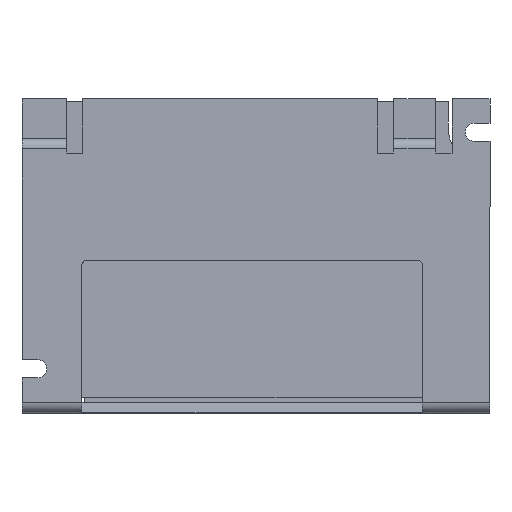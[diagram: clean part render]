
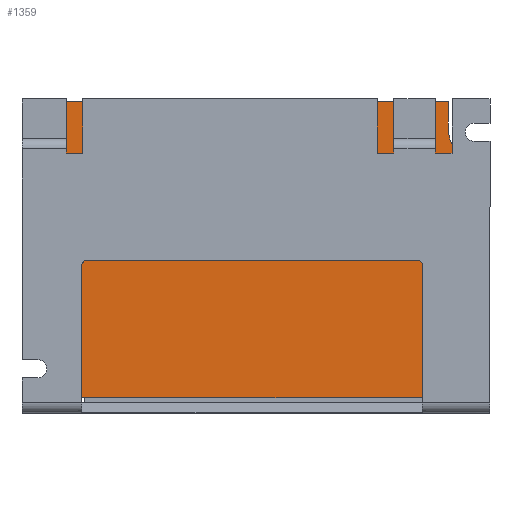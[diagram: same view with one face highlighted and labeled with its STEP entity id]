
A CAD part, front view. The second image highlights one B-rep face of the part: STEP entity #1359.
In plain terms, the highlighted planar face has unit normal (0, -1, 0).
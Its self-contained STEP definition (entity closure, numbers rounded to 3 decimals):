
#24 = LINE ( 'NONE', #4734, #4375 ) ;
#28 = ORIENTED_EDGE ( 'NONE', *, *, #1169, .F. ) ;
#69 = DIRECTION ( 'NONE',  ( 0., -1., 0. ) ) ;
#87 = PLANE ( 'NONE',  #1965 ) ;
#114 = LINE ( 'NONE', #1860, #240 ) ;
#166 = DIRECTION ( 'NONE',  ( 1., 0., 0. ) ) ;
#182 = EDGE_CURVE ( 'NONE', #1702, #1739, #731, .T. ) ;
#214 = DIRECTION ( 'NONE',  ( 1., 0., 0. ) ) ;
#224 = LINE ( 'NONE', #3394, #2155 ) ;
#240 = VECTOR ( 'NONE', #4705, 1000. ) ;
#352 = DIRECTION ( 'NONE',  ( 0., 0., -1. ) ) ;
#410 = LINE ( 'NONE', #4263, #4504 ) ;
#503 = DIRECTION ( 'NONE',  ( 0., 0., -1. ) ) ;
#611 = LINE ( 'NONE', #5238, #1557 ) ;
#668 = CARTESIAN_POINT ( 'NONE',  ( -44.5, 7.5, -27.3 ) ) ;
#678 = ORIENTED_EDGE ( 'NONE', *, *, #4752, .F. ) ;
#699 = CARTESIAN_POINT ( 'NONE',  ( -42., 7.5, -16.3 ) ) ;
#710 = VERTEX_POINT ( 'NONE', #4055 ) ;
#731 = LINE ( 'NONE', #1283, #5060 ) ;
#795 = VERTEX_POINT ( 'NONE', #3680 ) ;
#853 = ORIENTED_EDGE ( 'NONE', *, *, #1650, .F. ) ;
#910 = VERTEX_POINT ( 'NONE', #3053 ) ;
#915 = CARTESIAN_POINT ( 'NONE',  ( -36.5, 7.5, 22.6 ) ) ;
#928 = CARTESIAN_POINT ( 'NONE',  ( 34.5, 7.5, 29.7 ) ) ;
#934 = LINE ( 'NONE', #3027, #1057 ) ;
#1027 = VERTEX_POINT ( 'NONE', #3135 ) ;
#1054 = VERTEX_POINT ( 'NONE', #699 ) ;
#1057 = VECTOR ( 'NONE', #166, 1000. ) ;
#1158 = CARTESIAN_POINT ( 'NONE',  ( 44.5, 7.5, -27.3 ) ) ;
#1169 = EDGE_CURVE ( 'NONE', #2728, #710, #1498, .T. ) ;
#1226 = DIRECTION ( 'NONE',  ( 0., 0., -1. ) ) ;
#1283 = CARTESIAN_POINT ( 'NONE',  ( 37., 7.5, 29.7 ) ) ;
#1317 = CARTESIAN_POINT ( 'NONE',  ( 44.5, 7.5, 29.7 ) ) ;
#1318 = ORIENTED_EDGE ( 'NONE', *, *, #3764, .F. ) ;
#1359 = ADVANCED_FACE ( 'NONE', ( #3604 ), #87, .T. ) ;
#1413 = EDGE_CURVE ( 'NONE', #2068, #3480, #224, .T. ) ;
#1448 = EDGE_CURVE ( 'NONE', #2626, #1739, #934, .T. ) ;
#1493 = VECTOR ( 'NONE', #214, 1000. ) ;
#1498 = LINE ( 'NONE', #1158, #3551 ) ;
#1505 = ORIENTED_EDGE ( 'NONE', *, *, #1901, .F. ) ;
#1506 = DIRECTION ( 'NONE',  ( 0., 0., 1. ) ) ;
#1557 = VECTOR ( 'NONE', #352, 1000. ) ;
#1586 = EDGE_CURVE ( 'NONE', #1027, #1054, #1760, .T. ) ;
#1628 = ORIENTED_EDGE ( 'NONE', *, *, #1413, .T. ) ;
#1646 = DIRECTION ( 'NONE',  ( 0., 1., 0. ) ) ;
#1650 = EDGE_CURVE ( 'NONE', #2068, #3725, #24, .T. ) ;
#1702 = VERTEX_POINT ( 'NONE', #4374 ) ;
#1739 = VERTEX_POINT ( 'NONE', #4404 ) ;
#1747 = ORIENTED_EDGE ( 'NONE', *, *, #2924, .T. ) ;
#1751 = EDGE_CURVE ( 'NONE', #2626, #910, #611, .T. ) ;
#1760 = LINE ( 'NONE', #5092, #1493 ) ;
#1860 = CARTESIAN_POINT ( 'NONE',  ( -37., 7.5, -27.3 ) ) ;
#1901 = EDGE_CURVE ( 'NONE', #795, #2728, #4716, .T. ) ;
#1965 = AXIS2_PLACEMENT_3D ( 'NONE', #2135, #69, #503 ) ;
#1991 = ORIENTED_EDGE ( 'NONE', *, *, #1448, .F. ) ;
#2068 = VERTEX_POINT ( 'NONE', #915 ) ;
#2135 = CARTESIAN_POINT ( 'NONE',  ( 44.5, 7.5, 29.7 ) ) ;
#2136 = CARTESIAN_POINT ( 'NONE',  ( -37., 7.5, -21.3 ) ) ;
#2155 = VECTOR ( 'NONE', #4618, 1000. ) ;
#2193 = DIRECTION ( 'NONE',  ( 0., 1., 0. ) ) ;
#2318 = DIRECTION ( 'NONE',  ( 0., 0., 1. ) ) ;
#2426 = CARTESIAN_POINT ( 'NONE',  ( 34.5, 7.5, 22.6 ) ) ;
#2477 = EDGE_CURVE ( 'NONE', #910, #5042, #2869, .T. ) ;
#2594 = ORIENTED_EDGE ( 'NONE', *, *, #1586, .T. ) ;
#2626 = VERTEX_POINT ( 'NONE', #928 ) ;
#2695 = ORIENTED_EDGE ( 'NONE', *, *, #1751, .T. ) ;
#2728 = VERTEX_POINT ( 'NONE', #4228 ) ;
#2825 = DIRECTION ( 'NONE',  ( -1., 0., 0. ) ) ;
#2856 = ORIENTED_EDGE ( 'NONE', *, *, #3139, .T. ) ;
#2869 = LINE ( 'NONE', #2426, #4899 ) ;
#2908 = CARTESIAN_POINT ( 'NONE',  ( -36.5, 7.5, 29.7 ) ) ;
#2924 = EDGE_CURVE ( 'NONE', #5042, #2937, #3488, .T. ) ;
#2932 = CARTESIAN_POINT ( 'NONE',  ( 26.5, 7.5, 22.6 ) ) ;
#2937 = VERTEX_POINT ( 'NONE', #3544 ) ;
#3027 = CARTESIAN_POINT ( 'NONE',  ( 44.5, 7.5, 29.7 ) ) ;
#3053 = CARTESIAN_POINT ( 'NONE',  ( 34.5, 7.5, 22.6 ) ) ;
#3135 = CARTESIAN_POINT ( 'NONE',  ( -44.5, 7.5, -16.3 ) ) ;
#3139 = EDGE_CURVE ( 'NONE', #1054, #4423, #4749, .T. ) ;
#3218 = AXIS2_PLACEMENT_3D ( 'NONE', #4090, #1646, #4507 ) ;
#3354 = VECTOR ( 'NONE', #4169, 1000. ) ;
#3375 = VECTOR ( 'NONE', #3517, 1000. ) ;
#3394 = CARTESIAN_POINT ( 'NONE',  ( -36.5, 7.5, 22.6 ) ) ;
#3421 = ORIENTED_EDGE ( 'NONE', *, *, #4488, .T. ) ;
#3480 = VERTEX_POINT ( 'NONE', #4787 ) ;
#3488 = LINE ( 'NONE', #3948, #4572 ) ;
#3517 = DIRECTION ( 'NONE',  ( 0., 0., 1. ) ) ;
#3544 = CARTESIAN_POINT ( 'NONE',  ( 26.5, 7.5, 29.7 ) ) ;
#3551 = VECTOR ( 'NONE', #4013, 1000. ) ;
#3604 = FACE_OUTER_BOUND ( 'NONE', #3677, .T. ) ;
#3677 = EDGE_LOOP ( 'NONE', ( #3768, #3421, #3810, #1991, #2695, #4546, #1747, #1318, #853, #1628, #678, #2594, #2856, #4599, #28, #1505 ) ) ;
#3680 = CARTESIAN_POINT ( 'NONE',  ( 44.5, 7.5, 19.2 ) ) ;
#3725 = VERTEX_POINT ( 'NONE', #2908 ) ;
#3764 = EDGE_CURVE ( 'NONE', #3725, #2937, #4318, .T. ) ;
#3768 = ORIENTED_EDGE ( 'NONE', *, *, #3959, .T. ) ;
#3810 = ORIENTED_EDGE ( 'NONE', *, *, #182, .T. ) ;
#3859 = DIRECTION ( 'NONE',  ( -1., 0., 0. ) ) ;
#3948 = CARTESIAN_POINT ( 'NONE',  ( 26.5, 7.5, 30.2 ) ) ;
#3959 = EDGE_CURVE ( 'NONE', #795, #4104, #410, .T. ) ;
#4013 = DIRECTION ( 'NONE',  ( -1., 0., 0. ) ) ;
#4055 = CARTESIAN_POINT ( 'NONE',  ( -37., 7.5, -27.3 ) ) ;
#4090 = CARTESIAN_POINT ( 'NONE',  ( -42., 7.5, -21.3 ) ) ;
#4098 = CARTESIAN_POINT ( 'NONE',  ( 44.5, 7.5, -27.3 ) ) ;
#4104 = VERTEX_POINT ( 'NONE', #4764 ) ;
#4141 = DIRECTION ( 'NONE',  ( 0., 0., 1. ) ) ;
#4169 = DIRECTION ( 'NONE',  ( 1., 0., 0. ) ) ;
#4228 = CARTESIAN_POINT ( 'NONE',  ( 44.5, 7.5, -27.3 ) ) ;
#4249 = LINE ( 'NONE', #668, #3375 ) ;
#4263 = CARTESIAN_POINT ( 'NONE',  ( 44.5, 7.5, 19.2 ) ) ;
#4281 = AXIS2_PLACEMENT_3D ( 'NONE', #4620, #2193, #5026 ) ;
#4318 = LINE ( 'NONE', #1317, #3354 ) ;
#4374 = CARTESIAN_POINT ( 'NONE',  ( 37., 7.5, 24.2 ) ) ;
#4375 = VECTOR ( 'NONE', #2318, 1000. ) ;
#4404 = CARTESIAN_POINT ( 'NONE',  ( 37., 7.5, 29.7 ) ) ;
#4423 = VERTEX_POINT ( 'NONE', #2136 ) ;
#4488 = EDGE_CURVE ( 'NONE', #4104, #1702, #4524, .T. ) ;
#4504 = VECTOR ( 'NONE', #3859, 1000. ) ;
#4507 = DIRECTION ( 'NONE',  ( 0., 0., -1. ) ) ;
#4524 = CIRCLE ( 'NONE', #4281, 5. ) ;
#4546 = ORIENTED_EDGE ( 'NONE', *, *, #2477, .T. ) ;
#4572 = VECTOR ( 'NONE', #1506, 1000. ) ;
#4595 = VECTOR ( 'NONE', #1226, 1000. ) ;
#4599 = ORIENTED_EDGE ( 'NONE', *, *, #4658, .T. ) ;
#4618 = DIRECTION ( 'NONE',  ( -1., 0., 0. ) ) ;
#4620 = CARTESIAN_POINT ( 'NONE',  ( 42., 7.5, 24.2 ) ) ;
#4658 = EDGE_CURVE ( 'NONE', #4423, #710, #114, .T. ) ;
#4705 = DIRECTION ( 'NONE',  ( 0., 0., -1. ) ) ;
#4716 = LINE ( 'NONE', #4098, #4595 ) ;
#4734 = CARTESIAN_POINT ( 'NONE',  ( -36.5, 7.5, 22.6 ) ) ;
#4749 = CIRCLE ( 'NONE', #3218, 5. ) ;
#4752 = EDGE_CURVE ( 'NONE', #1027, #3480, #4249, .T. ) ;
#4764 = CARTESIAN_POINT ( 'NONE',  ( 42., 7.5, 19.2 ) ) ;
#4787 = CARTESIAN_POINT ( 'NONE',  ( -44.5, 7.5, 22.6 ) ) ;
#4899 = VECTOR ( 'NONE', #2825, 1000. ) ;
#5026 = DIRECTION ( 'NONE',  ( 0., 0., -1. ) ) ;
#5042 = VERTEX_POINT ( 'NONE', #2932 ) ;
#5060 = VECTOR ( 'NONE', #4141, 1000. ) ;
#5092 = CARTESIAN_POINT ( 'NONE',  ( -44.5, 7.5, -16.3 ) ) ;
#5238 = CARTESIAN_POINT ( 'NONE',  ( 34.5, 7.5, 22.6 ) ) ;
